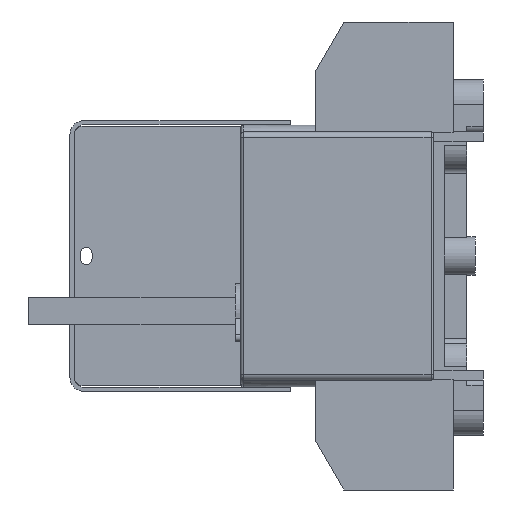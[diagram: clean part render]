
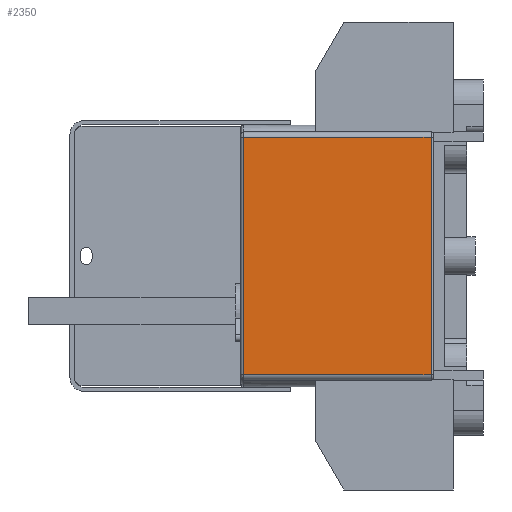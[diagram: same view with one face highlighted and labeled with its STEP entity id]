
A CAD part, left-side view. The second image highlights one B-rep face of the part: STEP entity #2350.
In plain terms, the highlighted planar face has unit normal (-1, 0, 0).
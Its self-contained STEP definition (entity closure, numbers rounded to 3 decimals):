
#2350=ADVANCED_FACE('',(#3832),#2987,.F.);
#2987=PLANE('',#20446);
#3832=FACE_OUTER_BOUND('',#4964,.T.);
#4964=EDGE_LOOP('',(#9822,#9823,#9824,#9825));
#9822=ORIENTED_EDGE('',*,*,#14808,.F.);
#9823=ORIENTED_EDGE('',*,*,#14793,.T.);
#9824=ORIENTED_EDGE('',*,*,#14809,.T.);
#9825=ORIENTED_EDGE('',*,*,#14485,.T.);
#11980=VERTEX_POINT('',#30377);
#11984=VERTEX_POINT('',#30386);
#12169=VERTEX_POINT('',#31084);
#12173=VERTEX_POINT('',#31116);
#14485=EDGE_CURVE('',#11980,#11984,#16632,.T.);
#14793=EDGE_CURVE('',#12169,#12173,#16795,.T.);
#14808=EDGE_CURVE('',#12169,#11984,#16802,.T.);
#14809=EDGE_CURVE('',#12173,#11980,#16803,.T.);
#16632=LINE('',#30387,#18588);
#16795=LINE('',#31117,#18751);
#16802=LINE('',#31170,#18758);
#16803=LINE('',#31172,#18759);
#18588=VECTOR('',#24821,1.);
#18751=VECTOR('',#25480,1.);
#18758=VECTOR('',#25507,1.);
#18759=VECTOR('',#25510,1.);
#20446=AXIS2_PLACEMENT_3D('',#31173,#25511,#25512);
#24821=DIRECTION('',(0.,0.,1.));
#25480=DIRECTION('',(0.,0.,-1.));
#25507=DIRECTION('',(0.,-1.,0.));
#25510=DIRECTION('',(0.,-1.,0.));
#25511=DIRECTION('',(1.,0.,0.));
#25512=DIRECTION('',(0.,0.,-1.));
#30377=CARTESIAN_POINT('',(-41.,1.,-43.));
#30386=CARTESIAN_POINT('',(-41.,1.,43.));
#30387=CARTESIAN_POINT('',(-41.,1.,-43.));
#31084=CARTESIAN_POINT('',(-41.,69.,43.));
#31116=CARTESIAN_POINT('',(-41.,69.,-43.));
#31117=CARTESIAN_POINT('',(-41.,69.,-43.));
#31170=CARTESIAN_POINT('',(-41.,35.,43.));
#31172=CARTESIAN_POINT('',(-41.,35.,-43.));
#31173=CARTESIAN_POINT('',(-41.,35.,-43.));
